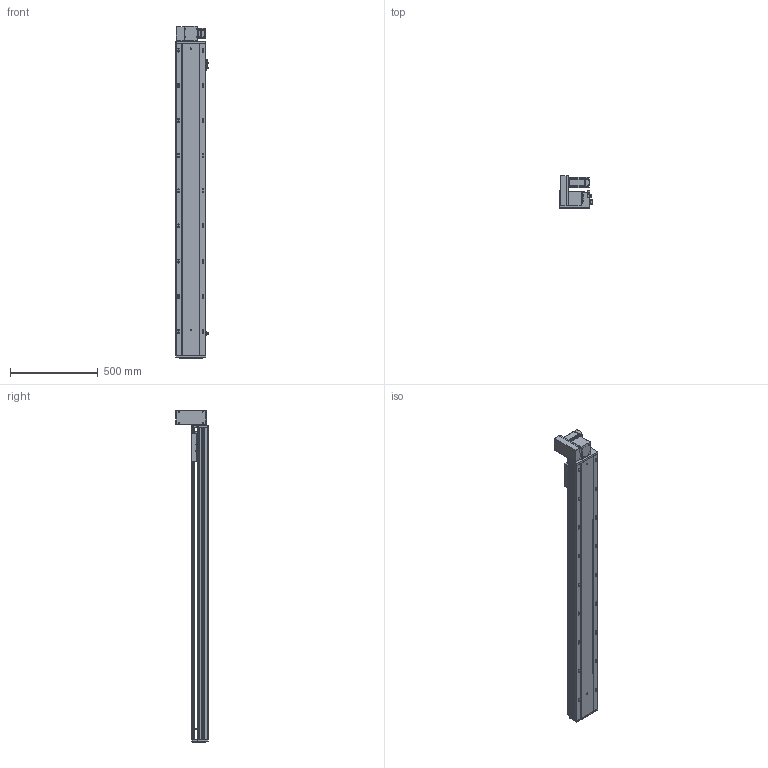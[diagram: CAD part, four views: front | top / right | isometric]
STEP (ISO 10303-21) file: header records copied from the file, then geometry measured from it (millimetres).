
FILE_DESCRIPTION (( 'STEP AP203' ), '1' );
FILE_NAME ('RY170-T-300-UL-P400W.SLDASM_1500.step', '2021-03-02T02:13:35', ( '盈信电脑' ), ( '东莞市道滘镇水果街19号' ), 'SwSTEP 2.0', 'SolidWorks 2012', '' );
FILE_SCHEMA (( 'CONFIG_CONTROL_DESIGN' ));
Products named in the file (18): RY170-T蹟翐M4; RY170-T-300-UL-P400W.SLDASM_1500; 15; RY170同步轮电机安装板(400W); RY120-T主同步轮轴承压盖; RY170肮祭謫萇儂欶; 滅袉蝶18-10; RY170-T肮祭謫裔啣; RY170-T肮祭湍揤踡輸1; RY170-T肮祭湍揤踡輸2; 覜茼ん672; RY170翋肮祭謫釱; RY170肮祭謫ヶ裔啣; RY170外置感应片(200共用）; RY170綴裔啣; RY170肮祭湍臏賑輸; RY170-T-300肮祭謫倰第菁釱-DL_1500; RY170-T-300肮祭謫倰第裔啣-DL_1500
Assembly tree (20 placements, depth 2):
  RY170-T-300-UL-P400W.SLDASM_1500
    RY170-T-300肮祭謫倰第菁釱-DL_1500
    RY170肮祭湍臏賑輸
    RY170-T-300肮祭謫倰第裔啣-DL_1500
    RY170綴裔啣
    覜茼ん672  x3
    RY170外置感应片(200共用）
    RY170肮祭謫ヶ裔啣
    RY170翋肮祭謫釱
    RY170-T肮祭湍揤踡輸1
    RY170-T肮祭湍揤踡輸2
    RY170-T肮祭謫裔啣
    滅袉蝶18-10  x2
    RY120-T主同步轮轴承压盖
    RY170肮祭謫萇儂欶
    RY170同步轮电机安装板(400W)
    RY170-T蹟翐M4
    15
Bounding box: 183.7 x 184 x 1888 mm (x, y, z)
Volume: 8967120.8 mm3; surface area: 3059970.5 mm2
Topology: 20 solids, 20 shells, 2685 faces, 7502 edges, 4783 vertices
Faces by surface type: cylinder 1234, plane 1149, cone 272, bspline 30
Entity records: 85776 total; most frequent: CARTESIAN_POINT 19334, ORIENTED_EDGE 13576, DIRECTION 13338, EDGE_CURVE 6788, AXIS2_PLACEMENT_3D 4709, VERTEX_POINT 4451, VECTOR 3920, LINE 3920
